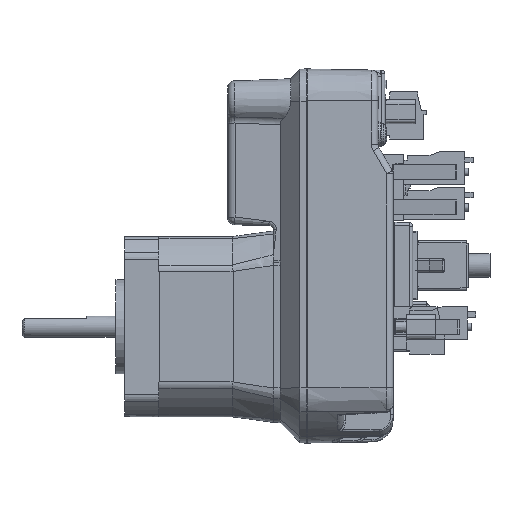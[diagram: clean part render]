
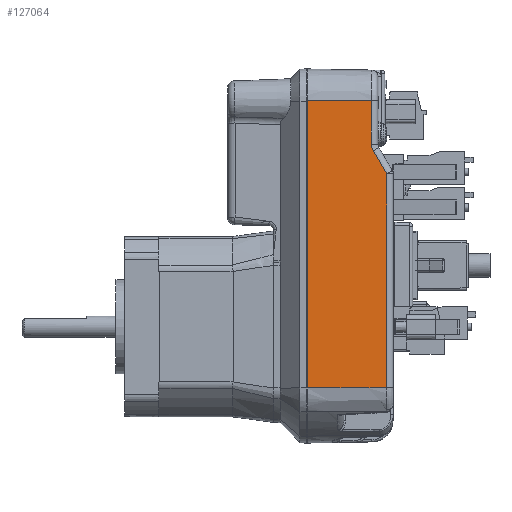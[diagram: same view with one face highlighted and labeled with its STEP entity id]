
A CAD part, left-side view. The second image highlights one B-rep face of the part: STEP entity #127064.
In plain terms, the highlighted planar face has unit normal (-1, -0.018, 0).
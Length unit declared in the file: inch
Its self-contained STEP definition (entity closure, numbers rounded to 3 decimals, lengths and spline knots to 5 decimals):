
#47482=CARTESIAN_POINT('',(-1.02901,0.64938,-0.56493));
#47483=VERTEX_POINT('',#47482);
#47493=CARTESIAN_POINT('',(-1.02901,0.64938,2.08422));
#47494=VERTEX_POINT('',#47493);
#47495=CARTESIAN_POINT('',(-1.02901,0.64938,0.07325));
#47496=DIRECTION('',(0.,0.,-1.));
#47497=VECTOR('',#47496,1.);
#47498=LINE('',#47495,#47497);
#47499=EDGE_CURVE('',#47494,#47483,#47498,.T.);
#76110=CARTESIAN_POINT('',(-1.01626,-0.08092,-0.56028));
#76111=VERTEX_POINT('',#76110);
#76119=CARTESIAN_POINT('',(-80.61903,4560.35857,-0.56267));
#76120=DIRECTION('',(1.,0.017,0.));
#76121=DIRECTION('',(-0.017,1.,0.));
#76122=AXIS2_PLACEMENT_3D('',#76119,#76120,#76121);
#76123=ELLIPSE('',#76122,4608.78781,4.17673);
#76124=EDGE_CURVE('',#76111,#47483,#76123,.T.);
#113495=CARTESIAN_POINT('',(-1.01626,-0.08092,1.40851));
#113496=VERTEX_POINT('',#113495);
#118919=CARTESIAN_POINT('',(-1.01842,0.04288,1.62293));
#118920=VERTEX_POINT('',#118919);
#118928=CARTESIAN_POINT('',(-1.01287,-0.27486,1.07261));
#118929=DIRECTION('',(-0.009,0.5,0.866));
#118930=VECTOR('',#118929,1.);
#118931=LINE('',#118928,#118930);
#118932=EDGE_CURVE('',#113496,#118920,#118931,.T.);
#118942=CARTESIAN_POINT('',(-1.01626,-0.08092,0.00885));
#118943=DIRECTION('',(0.,0.,-1.));
#118944=VECTOR('',#118943,1.);
#118945=LINE('',#118942,#118944);
#118946=EDGE_CURVE('',#113496,#76111,#118945,.T.);
#126957=CARTESIAN_POINT('',(-1.0187,0.05895,1.68293));
#126958=VERTEX_POINT('',#126957);
#126968=CARTESIAN_POINT('',(-1.0187,0.05895,1.68293));
#126969=CARTESIAN_POINT('',(-1.0187,0.05895,1.67674));
#126970=CARTESIAN_POINT('',(-1.01869,0.05847,1.67054));
#126971=CARTESIAN_POINT('',(-1.01865,0.05611,1.65545));
#126972=CARTESIAN_POINT('',(-1.01861,0.05369,1.64664));
#126973=CARTESIAN_POINT('',(-1.01851,0.0482,1.63296));
#126974=CARTESIAN_POINT('',(-1.01847,0.04571,1.62785));
#126975=CARTESIAN_POINT('',(-1.01842,0.04288,1.62293));
#126976=B_SPLINE_CURVE_WITH_KNOTS('',3,(#126968,#126969,#126970,#126971,#126972,#126973,#126974,#126975),.UNSPECIFIED.,.F.,.F.,(4,2,2,4),(0.,0.15494,0.38181,0.5236),.UNSPECIFIED.);
#126977=EDGE_CURVE('',#126958,#118920,#126976,.T.);
#127039=ORIENTED_EDGE('',*,*,#47499,.T.);
#127040=ORIENTED_EDGE('',*,*,#76124,.F.);
#127041=ORIENTED_EDGE('',*,*,#118946,.F.);
#127042=ORIENTED_EDGE('',*,*,#118932,.T.);
#127043=ORIENTED_EDGE('',*,*,#126977,.F.);
#127044=CARTESIAN_POINT('',(-1.0187,0.05895,2.08406));
#127045=VERTEX_POINT('',#127044);
#127046=CARTESIAN_POINT('',(-1.0187,0.05895,0.55015));
#127047=DIRECTION('',(0.,0.,-1.));
#127048=VECTOR('',#127047,1.);
#127049=LINE('',#127046,#127048);
#127050=EDGE_CURVE('',#127045,#126958,#127049,.T.);
#127051=ORIENTED_EDGE('',*,*,#127050,.F.);
#127052=CARTESIAN_POINT('',(-1.01871,0.05895,2.08406));
#127053=CARTESIAN_POINT('',(-1.02901,0.64938,2.08422));
#127054=B_SPLINE_CURVE_WITH_KNOTS('',1,(#127052,#127053),.UNSPECIFIED.,.F.,.F.,(2,2),(0.14161,0.73092),.UNSPECIFIED.);
#127055=EDGE_CURVE('',#127045,#47494,#127054,.T.);
#127056=ORIENTED_EDGE('',*,*,#127055,.T.);
#127057=EDGE_LOOP('',(#127039,#127040,#127041,#127042,#127043,#127051,#127056));
#127058=FACE_OUTER_BOUND('',#127057,.T.);
#127059=CARTESIAN_POINT('',(-1.02912,0.65588,-0.03685));
#127060=DIRECTION('',(1.,0.017,0.));
#127061=DIRECTION('',(0.,0.,1.));
#127062=AXIS2_PLACEMENT_3D('',#127059,#127060,#127061);
#127063=PLANE('',#127062);
#127064=ADVANCED_FACE('',(#127058),#127063,.F.);
